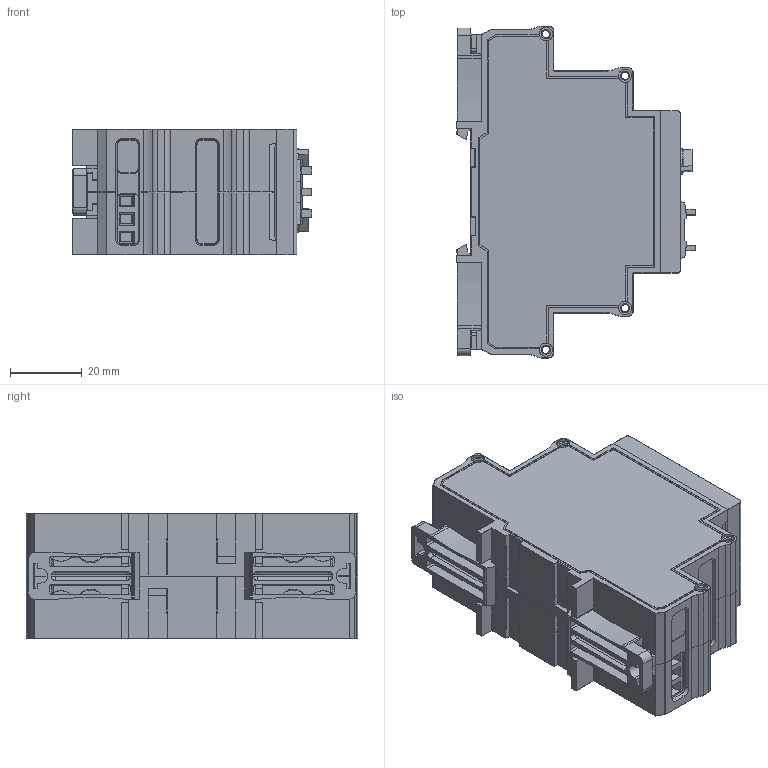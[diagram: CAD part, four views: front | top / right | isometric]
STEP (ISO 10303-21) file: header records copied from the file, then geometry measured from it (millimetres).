
FILE_DESCRIPTION(('STEP AP242'), '1');
FILE_NAME('ﾑ碚濱ﾐﾂﾎ-ﾏ3-08', '', ('UNSPECIFIED'), ('UNSPECIFIED'), 'C3D Converter', 'C3D Toolkit', '');
FILE_SCHEMA(('AP242_MANAGED_MODEL_BASED_3D_ENGINEERING_MIM_LF { 1 0 10303 442 1 1 4 }'));
Length unit declared in the file: millimetre
Products named in the file (20): Case_UC1-2sR-2024_SimpleModel_17mm; Case13-18-23mm_2step_Lock_v01a_Build20140909_1552; Case_UC1-2sR-2024_Plug_35mm; UC1-2sR-2024_Plug_13mm; Case_UC1-2sR-2024_Plug_35mm_add; DG128-5.08_Configurable_5.08x3; R-knob_2017_Hex2mm__Џｮ гｬｮｫзｭЁо
Assembly tree (27 placements, depth 4):
  (unnamed)
    Case_UC1-2sR-2024_SimpleModel_17mm  x2
    (unnamed)
    Case13-18-23mm_2step_Lock_v01a_Build20140909_1552  x2
    Case_UC1-2sR-2024_Plug_35mm  x2
    (unnamed)
      UC1-2sR-2024_Plug_13mm
      Case_UC1-2sR-2024_Plug_35mm_add
    DG128-5.08_Configurable_5.08x3  x3
    (unnamed)
      (unnamed)  x3
        (unnamed)
        (unnamed)
    R-knob_2017_Hex2mm__Џｮ гｬｮｫзｭЁо  x2
    (unnamed)
    (unnamed)
    (unnamed)
    (unnamed)
    (unnamed)
    (unnamed)
Bounding box: 66.63 x 92.4 x 35 mm (x, y, z)
Volume: 38910.8 mm3; surface area: 58387.6 mm2
Topology: 53 solids, 57 shells, 5419 faces, 14815 edges, 9526 vertices
Faces by surface type: plane 3625, cylinder 736, extrusion 656, torus 206, cone 84, bspline 58, sphere 54
Full cylindrical faces by diameter (mm): 1.238 x9, 2.1 x10, 2.2 x2, 3.7 x8, 3.9 x9, 4.5 x2, 5.2 x2, 12.6 x3
Entity records: 165776 total; most frequent: CARTESIAN_POINT 32267, ORIENTED_EDGE 22262, DIRECTION 17931, EDGE_CURVE 11131, VECTOR 9275, LINE 8619, VERTEX_POINT 7267, AXIS2_PLACEMENT_3D 4328
